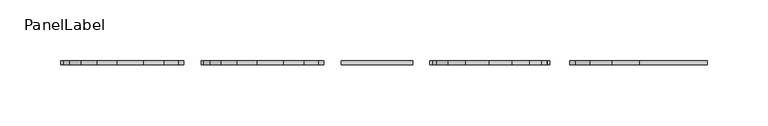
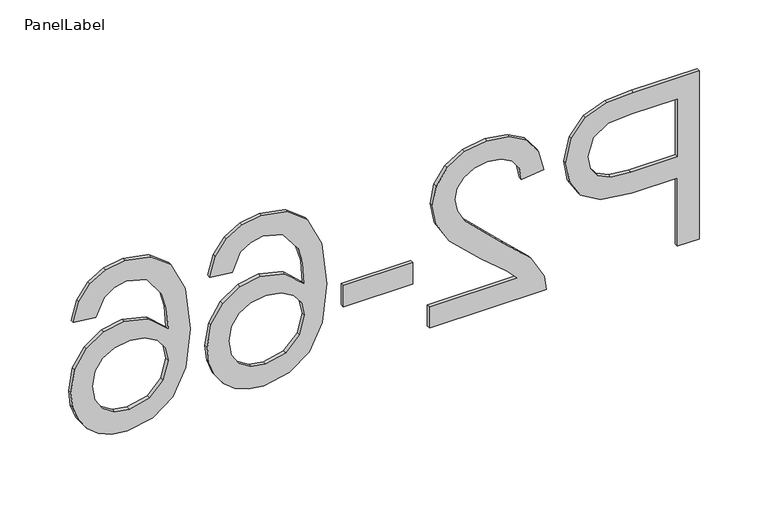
"""IFC4 building model written with IfcOpenShell, lengths in millimetres: fastener geometry, PanelLabel : Miranda."""

from ifc_helpers import new_model, si_unit, frame, origin, place, context, project, spatial, polyline, outline, extrude, source, transform, mapped, element, save


def panellabel_3153df19(model_context):
    return source(origin(), model_context, "Body", "SweptSolid", [
        extrude(outline(polyline([(1310.9113766, 260.2523077), (1460.9667612, 260.2523077), (1460.9667612, 204.6409615), (1459.5380112, 182.2205769), (1452.5224823, 163.9948558), (1438.0151747, 152.1801923), (1417.554742, 147.7107692), (1399.8693814, 150.7285457), (1385.1331073, 159.781875), (1375.1868093, 176.7116466), (1371.8713766, 203.35875), (1371.8713766, 241.4953846), (1310.9113766, 241.4953846), (1310.9113766, 260.2523077)]), holes=[polyline([(1390.6282997, 241.4953846), (1390.6282997, 202.2597115), (1392.3501266, 185.6275962), (1397.5156073, 174.6372115), (1405.8041891, 168.5100721), (1416.8953189, 166.4676923), (1432.4283958, 171.2851442), (1440.9276266, 183.9424038), (1442.2098381, 202.6993269), (1442.2098381, 241.4953846), (1390.6282997, 241.4953846)])]), frame((0.0, 60.325, 0.0), z_axis=(0.0, 1.0, 0.0), x_axis=(0.0, 0.0, 1.0)), (0.0, 0.0, 1.0), 3.175),
        extrude(outline(polyline([(1329.6682997, 32.8246154), (1310.9113766, 32.8246154), (1310.9113766, 131.2984615), (1323.8433958, 129.2835577), (1343.7543093, 117.8901923), (1365.4969535, 94.4074038), (1396.7462804, 62.0224038), (1407.5168573, 55.9502163), (1417.9943573, 53.9261538), (1427.3865569, 55.8357332), (1435.1943093, 61.5644712), (1440.4559559, 70.3705168), (1442.2098381, 81.5120192), (1440.4971698, 93.2121995), (1435.359165, 102.3021635), (1427.1988045, 108.1682813), (1416.4190689, 110.1969231), (1418.7636843, 128.9538462), (1436.9069775, 124.4065745), (1450.1595497, 114.5747596), (1458.2649583, 99.9712861), (1460.9667612, 81.1090385), (1457.9627227, 62.1094111), (1448.9506073, 47.5334135), (1435.4873862, 38.2602764), (1419.1300304, 35.1692308), (1401.3439247, 38.5029808), (1382.9533477, 49.5849519), (1357.254165, 76.4564423), (1339.211617, 98.0342308), (1329.6682997, 106.4968269), (1329.6682997, 32.8246154)])), frame((0.0, 60.325, 0.0), z_axis=(0.0, 1.0, 0.0), x_axis=(0.0, 0.0, 1.0)), (0.0, 0.0, 1.0), 3.175),
        extrude(outline(polyline([(-39.8584615, 63.5), (18.7569231, 63.5), (18.7569231, 60.325), (-39.8584615, 60.325), (-39.8584615, 63.5)])), frame((0.0, 0.0, 1355.4590689), z_axis=(0.0, 0.0, 1.0), x_axis=(1.0, 0.0, 0.0)), (0.0, 0.0, 1.0), 18.7569231),
        extrude(outline(polyline([(1421.1082997, -152.4), (1418.7636843, -133.6430769), (1434.406665, -126.5359615), (1440.2590448, -118.0275721), (1442.2098381, -107.7424038), (1437.6671458, -90.8172115), (1420.6137323, -78.0134135), (1406.6422059, -74.1255649), (1387.1846458, -72.6830769), (1402.1498862, -89.2236058), (1407.0406073, -109.7206731), (1403.6976987, -127.0488462), (1393.6689727, -141.5927885), (1378.3465448, -151.4566587), (1359.1225304, -154.7446154), (1345.6913646, -153.1968029), (1333.2401747, -148.5533654), (1322.6802468, -141.1989663), (1314.922867, -131.5182692), (1310.1557876, -119.9508894), (1308.5667612, -106.9364423), (1312.779742, -85.6563101), (1325.4186843, -68.7082212), (1347.729165, -57.6216707), (1380.9567612, -53.9261538), (1418.3149102, -58.0292308), (1443.8583958, -70.3384615), (1456.6896698, -87.1445913), (1460.9667612, -108.9147115), (1458.3199102, -125.3728125), (1450.3793573, -138.5521154), (1437.767891, -147.7840385), (1421.1082997, -152.4)]), holes=[polyline([(1359.4156073, -72.6830769), (1343.1681554, -77.0242788), (1331.3718093, -88.5641827), (1327.3236843, -105.4710577), (1329.421016, -117.8489784), (1335.7130112, -127.5800481), (1345.6043573, -133.8857812), (1358.499742, -135.9876923), (1370.8776626, -133.9132572), (1380.3156554, -127.6899519), (1386.2916771, -117.7940264), (1388.2836843, -104.7017308), (1386.2916771, -92.3421274), (1380.3156554, -82.0065865), (1371.106629, -75.0139543), (1359.4156073, -72.6830769)])]), frame((0.0, 60.325, 0.0), z_axis=(0.0, 1.0, 0.0), x_axis=(0.0, 0.0, 1.0)), (0.0, 0.0, 1.0), 3.175),
        extrude(outline(polyline([(1421.1082997, -267.2861538), (1418.7636843, -248.5292308), (1434.406665, -241.4221154), (1440.2590448, -232.913726), (1442.2098381, -222.6285577), (1437.6671458, -205.7033654), (1420.6137323, -192.8995673), (1406.6422059, -189.0117187), (1387.1846458, -187.5692308), (1402.1498862, -204.1097596), (1407.0406073, -224.6068269), (1403.6976987, -241.935), (1393.6689727, -256.4789423), (1378.3465448, -266.3428125), (1359.1225304, -269.6307692), (1345.6913646, -268.0829567), (1333.2401747, -263.4395192), (1322.6802468, -256.0851202), (1314.922867, -246.4044231), (1310.1557876, -234.8370433), (1308.5667612, -221.8225962), (1312.779742, -200.5424639), (1325.4186843, -183.594375), (1347.729165, -172.5078245), (1380.9567612, -168.8123077), (1418.3149102, -172.9153846), (1443.8583958, -185.2246154), (1456.6896698, -202.0307452), (1460.9667612, -223.8008654), (1458.3199102, -240.2589663), (1450.3793573, -253.4382692), (1437.767891, -262.6701923), (1421.1082997, -267.2861538)]), holes=[polyline([(1359.4156073, -187.5692308), (1343.1681554, -191.9104327), (1331.3718093, -203.4503365), (1327.3236843, -220.3572115), (1329.421016, -232.7351322), (1335.7130112, -242.4662019), (1345.6043573, -248.7719351), (1358.499742, -250.8738462), (1370.8776626, -248.7994111), (1380.3156554, -242.5761058), (1386.2916771, -232.6801803), (1388.2836843, -219.5878846), (1386.2916771, -207.2282812), (1380.3156554, -196.8927404), (1371.106629, -189.9001082), (1359.4156073, -187.5692308)])]), frame((0.0, 60.325, 0.0), z_axis=(0.0, 1.0, 0.0), x_axis=(0.0, 0.0, 1.0)), (0.0, 0.0, 1.0), 3.175),
    ])


if __name__ == "__main__":
    model = new_model("IFC4")
    model_context = context("Model", 3, world=origin())
    ifc_project = project(units=[si_unit("LENGTHUNIT", "METRE", prefix="MILLI")], contexts=[model_context])
    site = spatial("IfcSite", under=ifc_project)
    building = spatial("IfcBuilding", under=site)
    placement = place(None, origin())
    panellabel_shape = panellabel_3153df19(model_context)
    element("IfcFastener", 1, ObjectType="PanelLabel : Miranda", at=placement, inside=building, context=model_context, shape_type="MappedRepresentation", body=[
        mapped(panellabel_shape, transform((0.0, 0.0, 0.0), x_axis=(1.0, 0.0, 0.0), y_axis=(0.0, 1.0, 0.0), z_axis=(0.0, 0.0, 1.0))),
    ])
    save(model, "model.ifc")
